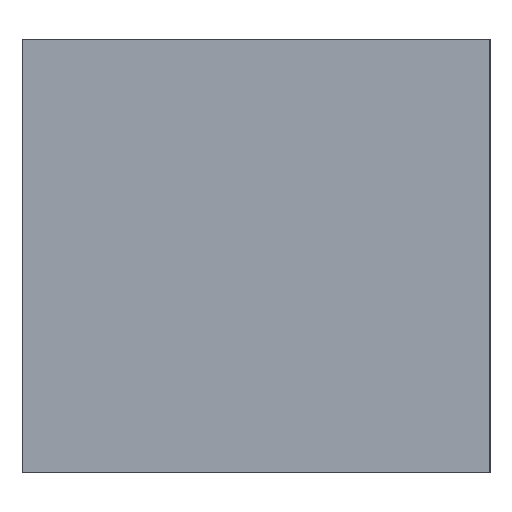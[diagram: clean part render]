
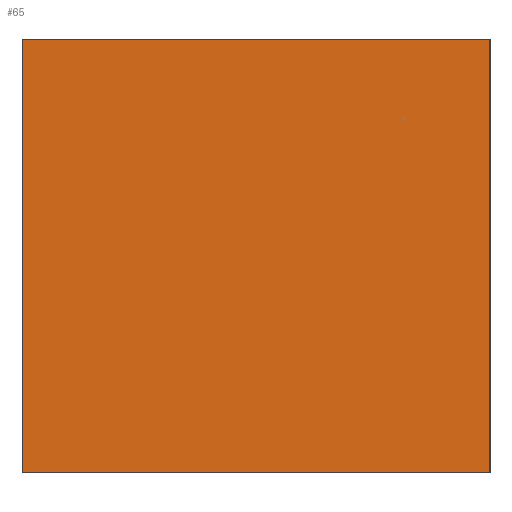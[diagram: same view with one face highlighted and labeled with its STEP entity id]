
A CAD part, left-side view. The second image highlights one B-rep face of the part: STEP entity #65.
In plain terms, the highlighted planar face has unit normal (-1, 0, 0).
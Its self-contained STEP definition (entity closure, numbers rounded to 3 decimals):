
#65 = ADVANCED_FACE( '', ( #134 ), #135, .F. );
#134 = FACE_OUTER_BOUND( '', #202, .T. );
#135 = PLANE( '', #203 );
#202 = EDGE_LOOP( '', ( #321, #322, #323, #324 ) );
#203 = AXIS2_PLACEMENT_3D( '', #325, #326, #327 );
#321 = ORIENTED_EDGE( '', *, *, #411, .F. );
#322 = ORIENTED_EDGE( '', *, *, #436, .F. );
#323 = ORIENTED_EDGE( '', *, *, #437, .F. );
#324 = ORIENTED_EDGE( '', *, *, #438, .F. );
#325 = CARTESIAN_POINT( '', ( -17.5, -26., -10.093 ) );
#326 = DIRECTION( '', ( 1., 0., 0. ) );
#327 = DIRECTION( '', ( 0., 0., -1. ) );
#411 = EDGE_CURVE( '', #488, #489, #490, .T. );
#436 = EDGE_CURVE( '', #525, #488, #526, .T. );
#437 = EDGE_CURVE( '', #527, #525, #528, .T. );
#438 = EDGE_CURVE( '', #489, #527, #529, .T. );
#488 = VERTEX_POINT( '', #591 );
#489 = VERTEX_POINT( '', #592 );
#490 = LINE( '', #593, #594 );
#525 = VERTEX_POINT( '', #640 );
#526 = LINE( '', #641, #642 );
#527 = VERTEX_POINT( '', #643 );
#528 = LINE( '', #644, #645 );
#529 = LINE( '', #646, #647 );
#591 = CARTESIAN_POINT( '', ( -17.5, 0., 12.5 ) );
#592 = CARTESIAN_POINT( '', ( -17.5, -27., 12.5 ) );
#593 = CARTESIAN_POINT( '', ( -17.5, -23., 12.5 ) );
#594 = VECTOR( '', #695, 1000. );
#640 = CARTESIAN_POINT( '', ( -17.5, 0., -12.5 ) );
#641 = CARTESIAN_POINT( '', ( -17.5, 0., -12.5 ) );
#642 = VECTOR( '', #725, 1000. );
#643 = CARTESIAN_POINT( '', ( -17.5, -27., -12.5 ) );
#644 = CARTESIAN_POINT( '', ( -17.5, -27., -12.5 ) );
#645 = VECTOR( '', #726, 1000. );
#646 = CARTESIAN_POINT( '', ( -17.5, -27., 12.5 ) );
#647 = VECTOR( '', #727, 1000. );
#695 = DIRECTION( '', ( 0., -1., 0. ) );
#725 = DIRECTION( '', ( 0., 0., 1. ) );
#726 = DIRECTION( '', ( 0., 1., 0. ) );
#727 = DIRECTION( '', ( 0., 0., -1. ) );
